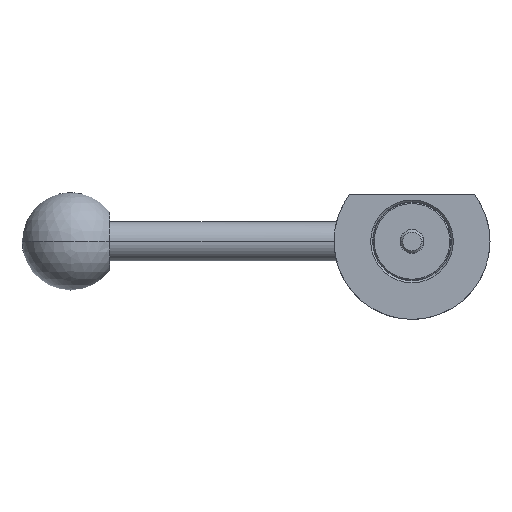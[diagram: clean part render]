
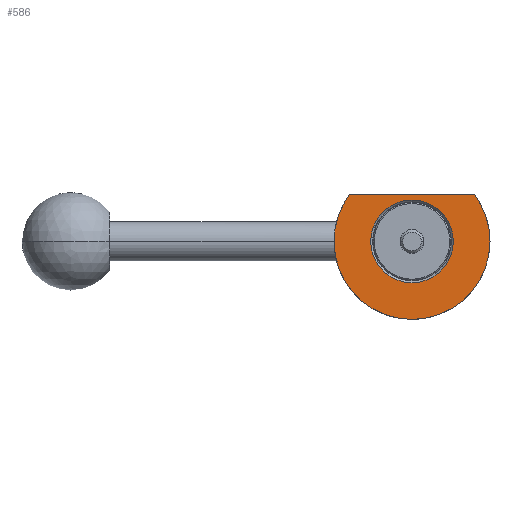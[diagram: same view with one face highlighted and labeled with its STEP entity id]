
A CAD part, front view. The second image highlights one B-rep face of the part: STEP entity #586.
In plain terms, the highlighted planar face has unit normal (0, -1, 0).
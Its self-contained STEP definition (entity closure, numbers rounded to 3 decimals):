
#7 = DIRECTION ( 'NONE',  ( -1., 0., 0. ) ) ;
#30 = EDGE_CURVE ( 'NONE', #1564, #497, #1850, .T. ) ;
#65 = DIRECTION ( 'NONE',  ( 0., 1., 0. ) ) ;
#128 = CARTESIAN_POINT ( 'NONE',  ( -10.6, -10., 0. ) ) ;
#198 = CARTESIAN_POINT ( 'NONE',  ( 0., -10., 0. ) ) ;
#205 = DIRECTION ( 'NONE',  ( 0., 1., 0. ) ) ;
#269 = DIRECTION ( 'NONE',  ( 0., 1., 0. ) ) ;
#334 = CARTESIAN_POINT ( 'NONE',  ( 0., -10., 0. ) ) ;
#341 = DIRECTION ( 'NONE',  ( -1., 0., 0. ) ) ;
#349 = CIRCLE ( 'NONE', #1453, 20. ) ;
#385 = PLANE ( 'NONE',  #1048 ) ;
#421 = EDGE_CURVE ( 'NONE', #1788, #2041, #349, .T. ) ;
#424 = AXIS2_PLACEMENT_3D ( 'NONE', #198, #1476, #832 ) ;
#432 = CARTESIAN_POINT ( 'NONE',  ( 0., -10., 0. ) ) ;
#472 = CIRCLE ( 'NONE', #840, 20. ) ;
#497 = VERTEX_POINT ( 'NONE', #128 ) ;
#571 = AXIS2_PLACEMENT_3D ( 'NONE', #1492, #205, #341 ) ;
#586 = ADVANCED_FACE ( 'NONE', ( #1708, #1353 ), #385, .T. ) ;
#628 = DIRECTION ( 'NONE',  ( 0., 1., 0. ) ) ;
#635 = VECTOR ( 'NONE', #7, 1000. ) ;
#747 = CARTESIAN_POINT ( 'NONE',  ( -10.6, -10., 0. ) ) ;
#779 = CARTESIAN_POINT ( 'NONE',  ( -10.6, -10., 11.999 ) ) ;
#784 = EDGE_CURVE ( 'NONE', #1788, #1716, #1442, .T. ) ;
#785 = DIRECTION ( 'NONE',  ( -1., 0., 0. ) ) ;
#832 = DIRECTION ( 'NONE',  ( -1., 0., 0. ) ) ;
#840 = AXIS2_PLACEMENT_3D ( 'NONE', #1224, #628, #785 ) ;
#905 = DIRECTION ( 'NONE',  ( 1., 0., 0. ) ) ;
#937 = VERTEX_POINT ( 'NONE', #1782 ) ;
#954 = EDGE_CURVE ( 'NONE', #497, #1564, #1135, .T. ) ;
#1014 = EDGE_LOOP ( 'NONE', ( #1440, #1076 ) ) ;
#1034 = CARTESIAN_POINT ( 'NONE',  ( 10.6, -10., 0. ) ) ;
#1048 = AXIS2_PLACEMENT_3D ( 'NONE', #747, #1808, #905 ) ;
#1076 = ORIENTED_EDGE ( 'NONE', *, *, #954, .T. ) ;
#1086 = CARTESIAN_POINT ( 'NONE',  ( -16.001, -10., 11.999 ) ) ;
#1107 = CARTESIAN_POINT ( 'NONE',  ( 20., -10., 0. ) ) ;
#1135 = CIRCLE ( 'NONE', #571, 10.6 ) ;
#1224 = CARTESIAN_POINT ( 'NONE',  ( 0., -10., 0. ) ) ;
#1336 = ORIENTED_EDGE ( 'NONE', *, *, #784, .T. ) ;
#1353 = FACE_OUTER_BOUND ( 'NONE', #1541, .T. ) ;
#1434 = CIRCLE ( 'NONE', #424, 20. ) ;
#1440 = ORIENTED_EDGE ( 'NONE', *, *, #30, .T. ) ;
#1442 = LINE ( 'NONE', #779, #635 ) ;
#1453 = AXIS2_PLACEMENT_3D ( 'NONE', #432, #269, #2031 ) ;
#1457 = DIRECTION ( 'NONE',  ( -1., 0., 0. ) ) ;
#1476 = DIRECTION ( 'NONE',  ( 0., 1., 0. ) ) ;
#1492 = CARTESIAN_POINT ( 'NONE',  ( 0., -10., 0. ) ) ;
#1541 = EDGE_LOOP ( 'NONE', ( #1673, #1336, #1800, #2009 ) ) ;
#1564 = VERTEX_POINT ( 'NONE', #1034 ) ;
#1612 = AXIS2_PLACEMENT_3D ( 'NONE', #334, #65, #1457 ) ;
#1673 = ORIENTED_EDGE ( 'NONE', *, *, #421, .F. ) ;
#1708 = FACE_BOUND ( 'NONE', #1014, .T. ) ;
#1716 = VERTEX_POINT ( 'NONE', #1086 ) ;
#1782 = CARTESIAN_POINT ( 'NONE',  ( -20., -10., 0. ) ) ;
#1788 = VERTEX_POINT ( 'NONE', #1913 ) ;
#1800 = ORIENTED_EDGE ( 'NONE', *, *, #2032, .F. ) ;
#1807 = EDGE_CURVE ( 'NONE', #2041, #937, #1434, .T. ) ;
#1808 = DIRECTION ( 'NONE',  ( 0., -1., 0. ) ) ;
#1850 = CIRCLE ( 'NONE', #1612, 10.6 ) ;
#1913 = CARTESIAN_POINT ( 'NONE',  ( 16.001, -10., 11.999 ) ) ;
#2009 = ORIENTED_EDGE ( 'NONE', *, *, #1807, .F. ) ;
#2031 = DIRECTION ( 'NONE',  ( -1., 0., 0. ) ) ;
#2032 = EDGE_CURVE ( 'NONE', #937, #1716, #472, .T. ) ;
#2041 = VERTEX_POINT ( 'NONE', #1107 ) ;
